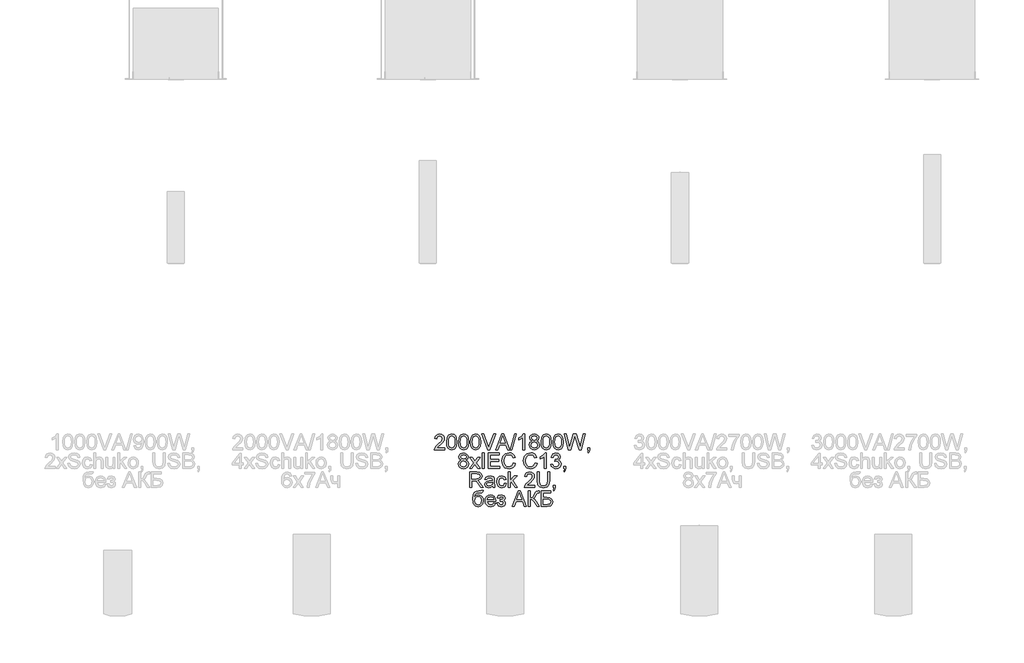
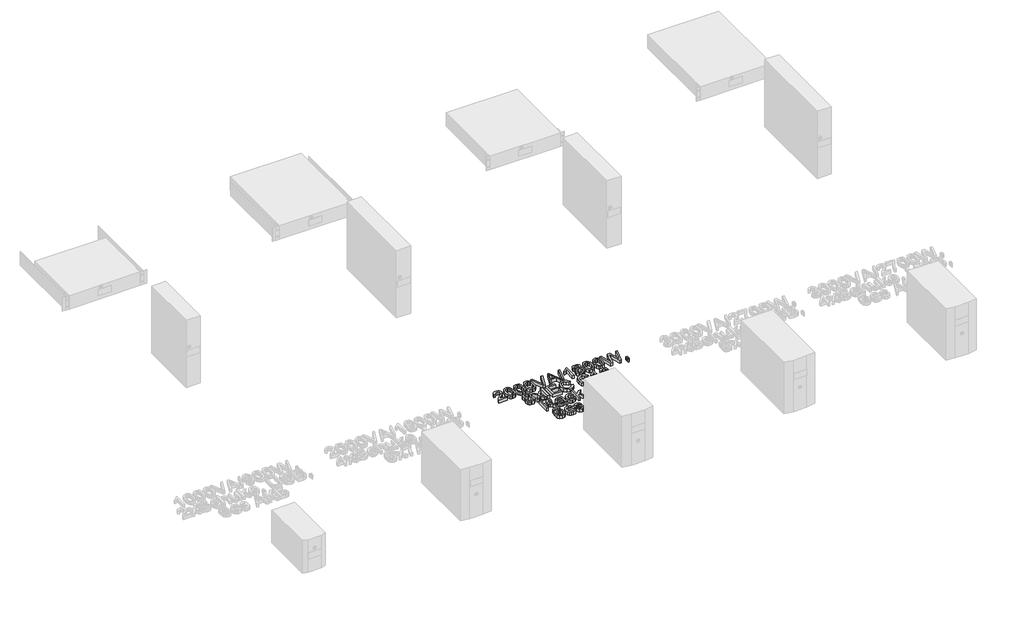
# One storey, part 57 of 74: 1 proxy.
"""IFC4 building model written with IfcOpenShell, lengths in millimetres."""

from ifc_helpers import new_model, si_unit, origin, origin_with_axes, place, context, project, spatial, polyline, outline, extrude, element, save

model = new_model("IFC4")

# Units and contexts
model_context = context("Model", 3, world=origin())
ifc_project = project(units=[si_unit("LENGTHUNIT", "METRE", prefix="MILLI")], contexts=[model_context])

# Site, building, storey
site = spatial("IfcSite", under=ifc_project)
building = spatial("IfcBuilding", under=site)
storey = spatial("IfcBuildingStorey", under=building, Name="Этаж 01", Elevation=0.0)

# Proxy
placement = place(None, origin())
element("IfcBuildingElementProxy", 1, Name="80 мм Arial", ObjectType="80 мм Arial", at=placement, inside=storey, context=model_context, shape_type="SweptSolid", body=[
    extrude(outline(polyline([(4039.1131351, -727.5892275), (4039.1131351, -737.6348585), (3986.3735723, -737.6348585), (3987.4526928, -730.7088668), (3993.5546288, -720.045194), (4006.1312879, -708.4005026), (4023.4756977, -691.6643244), (4027.8118002, -680.284508), (4023.7209524, -671.0727428), (4013.0376593, -667.3154414), (4001.9030975, -670.9844511), (3997.6749071, -681.128184), (3987.6292761, -679.8724801), (3990.0646549, -670.1554904), (3995.3302726, -663.0578204), (4003.1514438, -658.7168129), (4013.2534834, -657.2698104), (4023.4290994, -658.8786809), (4031.2355553, -663.7052927), (4036.2019622, -670.9157798), (4037.8574312, -679.6762764), (4036.0719773, -689.2019675), (4030.1368144, -699.0513948), (4015.7452708, -712.8150865), (4004.188871, -722.4781203), (3999.6565648, -727.5892275), (4039.1131351, -727.5892275)])), origin_with_axes(), (0.0, 0.0, 1.0), 20.0),
    extrude(outline(polyline([(4049.1587661, -698.0998067), (4052.1116322, -674.9771971), (4060.881939, -661.6451535), (4075.5285475, -657.2698104), (4087.2615306, -659.8596996), (4095.3647447, -667.3252516), (4100.0736342, -679.2151976), (4101.8983289, -698.0998067), (4098.9748933, -721.1243145), (4090.2340171, -734.4857886), (4075.5285475, -738.8905623), (4065.090509, -736.977576), (4057.1638783, -731.2386168), (4051.1600442, -717.6466034), (4049.1587661, -698.0998067)]), holes=[polyline([(4059.2043971, -698.0801864), (4060.3816195, -713.8819443), (4063.9132867, -723.0274907), (4075.5285475, -728.8449313), (4087.1438084, -723.0078703), (4090.6754755, -713.8574189), (4091.8526979, -698.0801864), (4090.7147163, -682.6340476), (4087.3007714, -673.4173774), (4082.0523216, -668.8409254), (4075.4108253, -667.3154414), (4064.0702496, -672.6914236), (4060.4208602, -682.4819898), (4059.2043971, -698.0801864)])]), origin_with_axes(), (0.0, 0.0, 1.0), 20.0),
    extrude(outline(polyline([(4110.6882561, -698.0998067), (4113.6411222, -674.9771971), (4122.411429, -661.6451535), (4137.0580375, -657.2698104), (4148.7910206, -659.8596996), (4156.8942347, -667.3252516), (4161.6031242, -679.2151976), (4163.4278189, -698.0998067), (4160.5043833, -721.1243145), (4151.7635071, -734.4857886), (4137.0580375, -738.8905623), (4126.619999, -736.977576), (4118.6933683, -731.2386168), (4112.6895341, -717.6466034), (4110.6882561, -698.0998067)]), holes=[polyline([(4120.7338871, -698.0801864), (4121.9111095, -713.8819443), (4125.4427766, -723.0274907), (4137.0580375, -728.8449313), (4148.6732983, -723.0078703), (4152.2049655, -713.8574189), (4153.3821879, -698.0801864), (4152.2442062, -682.6340476), (4148.8302613, -673.4173774), (4143.5818115, -668.8409254), (4136.9403152, -667.3154414), (4125.5997396, -672.6914236), (4121.9503502, -682.4819898), (4120.7338871, -698.0801864)])]), origin_with_axes(), (0.0, 0.0, 1.0), 20.0),
    extrude(outline(polyline([(4172.217746, -698.0998067), (4175.1706122, -674.9771971), (4183.9409189, -661.6451535), (4198.5875274, -657.2698104), (4210.3205105, -659.8596996), (4218.4237246, -667.3252516), (4223.1326142, -679.2151976), (4224.9573089, -698.0998067), (4222.0338733, -721.1243145), (4213.2929971, -734.4857886), (4198.5875274, -738.8905623), (4188.149489, -736.977576), (4180.2228582, -731.2386168), (4174.2190241, -717.6466034), (4172.217746, -698.0998067)]), holes=[polyline([(4182.263377, -698.0801864), (4183.4405994, -713.8819443), (4186.9722666, -723.0274907), (4198.5875274, -728.8449313), (4210.2027883, -723.0078703), (4213.7344555, -713.8574189), (4214.9116778, -698.0801864), (4213.7736962, -682.6340476), (4210.3597513, -673.4173774), (4205.1113015, -668.8409254), (4198.4698052, -667.3154414), (4187.1292296, -672.6914236), (4183.4798402, -682.4819898), (4182.263377, -698.0801864)])]), origin_with_axes(), (0.0, 0.0, 1.0), 20.0),
    extrude(outline(polyline([(4302.2419584, -737.6348585), (4334.3212684, -657.2698104), (4342.875751, -657.2698104), (4374.955061, -737.6348585), (4364.3404392, -737.6348585), (4355.1384842, -712.5207809), (4322.0389148, -712.5207809), (4312.8565802, -737.6348585), (4302.2419584, -737.6348585)]), holes=[polyline([(4325.727545, -702.4751499), (4351.4694745, -702.4751499), (4344.2295568, -682.7174342), (4338.5985097, -667.3154414), (4333.5953146, -680.9908414), (4325.727545, -702.4751499)])]), origin_with_axes(), (0.0, 0.0, 1.0), 20.0),
    extrude(outline(polyline([(4261.2549991, -737.6348585), (4229.2737909, -657.2698104), (4240.0257554, -657.2698104), (4261.4315824, -715.1695313), (4265.7676849, -728.2170794), (4270.0449262, -715.1695313), (4291.5096143, -657.2698104), (4302.2615788, -657.2698104), (4271.6341764, -737.6348585), (4261.2549991, -737.6348585)])), origin_with_axes(), (0.0, 0.0, 1.0), 20.0),
    extrude(outline(polyline([(4376.897478, -737.6348585), (4399.5001477, -657.2698104), (4408.5647601, -657.2698104), (4385.9620903, -737.6348585), (4376.897478, -737.6348585)])), origin_with_axes(), (0.0, 0.0, 1.0), 20.0),
    extrude(outline(polyline([(4450.9840067, -737.6348585), (4440.9383757, -737.6348585), (4440.9383757, -675.0066276), (4431.4224947, -681.7854665), (4420.8471137, -686.857333), (4420.8471137, -677.3610724), (4435.5722036, -667.9629137), (4444.5092836, -657.2698104), (4450.9840067, -657.2698104), (4450.9840067, -737.6348585)])), origin_with_axes(), (0.0, 0.0, 1.0), 20.0),
    extrude(outline(polyline([(4489.4791787, -693.3712968), (4480.3262746, -687.1320182), (4477.3537881, -677.4199335), (4478.9724689, -669.5668792), (4483.8285112, -663.0774408), (4491.3774498, -658.721718), (4501.0748192, -657.2698104), (4510.8310497, -658.7560536), (4518.4780901, -663.2147834), (4523.4224241, -669.8072287), (4525.0705354, -677.6946187), (4522.1372897, -687.1614487), (4513.2394505, -693.3712968), (4523.9227436, -701.2488766), (4527.5819432, -714.2473738), (4525.7670587, -723.8515464), (4520.3224051, -731.7879873), (4511.9150753, -737.1149186), (4501.2121618, -738.8905623), (4490.5092483, -737.1075609), (4482.1019184, -731.7585567), (4476.6572649, -723.7460869), (4474.8423804, -713.9726885), (4478.6487327, -700.6700756), (4489.4791787, -693.3712968)]), holes=[polyline([(4487.3994191, -677.7142391), (4490.9605168, -685.6016291), (4501.329884, -688.6624073), (4511.4932373, -685.6212494), (4515.0249044, -678.1655077), (4511.375515, -670.4448909), (4501.2121618, -667.3154414), (4491.019378, -670.3762196), (4487.3994191, -677.7142391)]), polyline([(4484.8880114, -713.6195218), (4486.5655533, -721.1831756), (4492.5007161, -726.8436533), (4501.2906433, -728.8449313), (4513.2590708, -724.6363613), (4517.5363122, -713.9334478), (4513.1217282, -703.0245204), (4500.9570969, -698.7080383), (4489.1358221, -702.9656592), (4484.8880114, -713.6195218)])]), origin_with_axes(), (0.0, 0.0, 1.0), 20.0),
    extrude(outline(polyline([(4536.3718703, -698.0998067), (4539.3247365, -674.9771971), (4548.0950432, -661.6451535), (4562.7416517, -657.2698104), (4574.4746348, -659.8596996), (4582.5778489, -667.3252516), (4587.2867385, -679.2151976), (4589.1114332, -698.0998067), (4586.1879976, -721.1243145), (4577.4471214, -734.4857886), (4562.7416517, -738.8905623), (4552.3036133, -736.977576), (4544.3769825, -731.2386168), (4538.3731484, -717.6466034), (4536.3718703, -698.0998067)]), holes=[polyline([(4546.4175013, -698.0801864), (4547.5947237, -713.8819443), (4551.1263909, -723.0274907), (4562.7416517, -728.8449313), (4574.3569126, -723.0078703), (4577.8885798, -713.8574189), (4579.0658021, -698.0801864), (4577.9278205, -682.6340476), (4574.5138756, -673.4173774), (4569.2654258, -668.8409254), (4562.6239295, -667.3154414), (4551.2833539, -672.6914236), (4547.6339645, -682.4819898), (4546.4175013, -698.0801864)])]), origin_with_axes(), (0.0, 0.0, 1.0), 20.0),
    extrude(outline(polyline([(4597.9013603, -698.0998067), (4600.8542264, -674.9771971), (4609.6245332, -661.6451535), (4624.2711417, -657.2698104), (4636.0041248, -659.8596996), (4644.1073389, -667.3252516), (4648.8162284, -679.2151976), (4650.6409231, -698.0998067), (4647.7174875, -721.1243145), (4638.9766113, -734.4857886), (4624.2711417, -738.8905623), (4613.8331032, -736.977576), (4605.9064725, -731.2386168), (4599.9026383, -717.6466034), (4597.9013603, -698.0998067)]), holes=[polyline([(4607.9469913, -698.0801864), (4609.1242137, -713.8819443), (4612.6558808, -723.0274907), (4624.2711417, -728.8449313), (4635.8864026, -723.0078703), (4639.4180697, -713.8574189), (4640.5952921, -698.0801864), (4639.4573105, -682.6340476), (4636.0433656, -673.4173774), (4630.7949158, -668.8409254), (4624.1534195, -667.3154414), (4612.8128438, -672.6914236), (4609.1634544, -682.4819898), (4607.9469913, -698.0801864)])]), origin_with_axes(), (0.0, 0.0, 1.0), 20.0),
    extrude(outline(polyline([(4677.5796954, -737.6348585), (4655.6637386, -657.2698104), (4666.0232956, -657.2698104), (4678.7372974, -710.0878547), (4682.661372, -726.3923847), (4686.8601318, -711.9714105), (4702.7918748, -657.2698104), (4717.7229787, -657.2698104), (4729.2989988, -696.9225843), (4737.9123426, -726.3923847), (4741.7186949, -710.5587436), (4754.5504189, -657.2698104), (4764.9099759, -657.2698104), (4742.9743988, -737.6348585), (4732.2420547, -737.6348585), (4712.9748484, -675.6344796), (4710.2868573, -666.981895), (4707.2653198, -677.4003131), (4689.7050859, -737.6348585), (4677.5796954, -737.6348585)])), origin_with_axes(), (0.0, 0.0, 1.0), 20.0),
    extrude(outline(polyline([(4776.2113108, -737.6348585), (4776.2113108, -727.5892275), (4786.2569418, -727.5892275), (4786.2569418, -737.6348585), (4784.4518675, -747.9061238), (4778.7227186, -753.9590089), (4776.2113108, -750.1918972), (4779.8999409, -745.8557948), (4781.2145059, -737.6348585), (4776.2113108, -737.6348585)])), origin_with_axes(), (0.0, 0.0, 1.0), 20.0),
    extrude(outline(polyline([(4124.6972024, -790.9511511), (4115.5442984, -784.7118724), (4112.5718119, -774.9997878), (4114.1904927, -767.1467335), (4119.046535, -760.6572951), (4126.5954735, -756.3015722), (4136.2928429, -754.8496646), (4146.0490734, -756.3359079), (4153.6961138, -760.7946377), (4158.6404479, -767.387083), (4160.2885592, -775.274473), (4157.3553134, -784.741303), (4148.4574742, -790.9511511), (4159.1407674, -798.8287309), (4162.799967, -811.827228), (4160.9850824, -821.4314007), (4155.5404289, -829.3678416), (4147.1330991, -834.6947729), (4136.4301855, -836.4704166), (4125.727272, -834.6874152), (4117.3199422, -829.338411), (4111.8752886, -821.3259412), (4110.0604041, -811.5525428), (4113.8667565, -798.2499299), (4124.6972024, -790.9511511)]), holes=[polyline([(4122.6174429, -775.2940934), (4126.1785406, -783.1814834), (4136.5479078, -786.2422615), (4146.711261, -783.2011037), (4150.2429282, -775.745362), (4146.5935388, -768.0247451), (4136.4301855, -764.8952956), (4126.2374017, -767.9560738), (4122.6174429, -775.2940934)]), polyline([(4120.1060351, -811.1993761), (4121.783577, -818.7630299), (4127.7187399, -824.4235076), (4136.508667, -826.4247856), (4148.4770946, -822.2162156), (4152.7543359, -811.5133021), (4148.339752, -800.6043746), (4136.1751207, -796.2878926), (4124.3538459, -800.5455135), (4120.1060351, -811.1993761)])]), origin_with_axes(), (0.0, 0.0, 1.0), 20.0),
    extrude(outline(polyline([(4167.8227825, -835.2147127), (4189.2874706, -805.5487087), (4169.0784863, -776.1966305), (4181.1646362, -776.1966305), (4190.9159616, -790.3232991), (4195.4678881, -796.994226), (4199.4115831, -791.5397623), (4210.5167143, -776.1966305), (4222.6028641, -776.1966305), (4201.3736204, -805.5487087), (4221.8180492, -835.2147127), (4209.7318994, -835.2147127), (4197.4299254, -817.3797936), (4195.1735825, -814.1228117), (4179.9089323, -835.2147127), (4167.8227825, -835.2147127)])), origin_with_axes(), (0.0, 0.0, 1.0), 20.0),
    extrude(outline(polyline([(4233.1193841, -835.2147127), (4233.1193841, -754.8496646), (4243.1650151, -754.8496646), (4243.1650151, -835.2147127), (4233.1193841, -835.2147127)])), origin_with_axes(), (0.0, 0.0, 1.0), 20.0),
    extrude(outline(polyline([(4263.2562771, -835.2147127), (4263.2562771, -754.8496646), (4321.0186554, -754.8496646), (4321.0186554, -764.8952956), (4273.3019081, -764.8952956), (4273.3019081, -788.7536693), (4318.5072477, -788.7536693), (4318.5072477, -798.7993003), (4273.3019081, -798.7993003), (4273.3019081, -825.1690817), (4322.2743593, -825.1690817), (4322.2743593, -835.2147127), (4263.2562771, -835.2147127)])), origin_with_axes(), (0.0, 0.0, 1.0), 20.0),
    extrude(outline(polyline([(4393.8494803, -806.6474495), (4403.8951113, -809.2373388), (4399.2597982, -820.9433439), (4391.9855449, -829.495374), (4382.4304232, -834.726656), (4370.9525049, -836.4704166), (4350.0469974, -831.1925363), (4337.7842642, -815.9082656), (4333.5756942, -794.4239571), (4338.3336347, -772.5864819), (4351.8618819, -758.4303827), (4371.168329, -753.5939608), (4382.182716, -755.1586855), (4391.2890216, -759.8528598), (4398.2027506, -767.387083), (4402.6394074, -777.4719548), (4392.5937764, -779.8656403), (4384.3532197, -767.5146154), (4370.7759216, -763.6395918), (4355.0600027, -767.9364535), (4346.1817839, -779.4732328), (4343.6213252, -794.4043367), (4346.6526729, -811.7095058), (4356.0900723, -822.765586), (4369.9518659, -826.4247856), (4385.3244282, -821.4412108), (4393.8494803, -806.6474495)])), origin_with_axes(), (0.0, 0.0, 1.0), 20.0),
    extrude(outline(polyline([(4505.6071253, -806.6474495), (4515.6527564, -809.2373388), (4511.0174432, -820.9433439), (4503.7431899, -829.495374), (4494.1880682, -834.726656), (4482.71015, -836.4704166), (4461.8046424, -831.1925363), (4449.5419093, -815.9082656), (4445.3333393, -794.4239571), (4450.0912797, -772.5864819), (4463.619527, -758.4303827), (4482.9259741, -753.5939608), (4493.940361, -755.1586855), (4503.0466667, -759.8528598), (4509.9603956, -767.387083), (4514.3970525, -777.4719548), (4504.3514215, -779.8656403), (4496.1108648, -767.5146154), (4482.5335666, -763.6395918), (4466.8176478, -767.9364535), (4457.939429, -779.4732328), (4455.3789703, -794.4043367), (4458.4103179, -811.7095058), (4467.8477174, -822.765586), (4481.7095109, -826.4247856), (4497.0820732, -821.4412108), (4505.6071253, -806.6474495)])), origin_with_axes(), (0.0, 0.0, 1.0), 20.0),
    extrude(outline(polyline([(4563.3695037, -835.2147127), (4553.3238727, -835.2147127), (4553.3238727, -772.5864819), (4543.8079917, -779.3653208), (4533.2326106, -784.4371872), (4533.2326106, -774.9409267), (4547.9577006, -765.542768), (4556.8947806, -754.8496646), (4563.3695037, -754.8496646), (4563.3695037, -835.2147127)])), origin_with_axes(), (0.0, 0.0, 1.0), 20.0),
    extrude(outline(polyline([(4587.2278773, -813.8677468), (4597.2735084, -812.612043), (4602.8162637, -823.1874241), (4613.1856309, -826.4247856), (4625.389503, -821.9709609), (4629.9218092, -810.9443113), (4625.4287437, -800.5553237), (4614.0096866, -796.4448555), (4606.9659727, -797.5435964), (4608.0843339, -787.4979654), (4609.6932045, -787.6156877), (4621.0926413, -784.7314928), (4626.1546975, -775.8630842), (4622.4856878, -768.0051248), (4613.0286679, -764.8952956), (4603.4539259, -768.0345553), (4598.5292122, -777.4523344), (4588.4835812, -776.1966305), (4596.7045175, -760.441471), (4612.6755012, -754.8496646), (4624.7910816, -757.606327), (4633.2670828, -765.1405503), (4636.2003285, -775.274473), (4633.4142356, -784.5352891), (4625.1736789, -791.1865956), (4636.121847, -798.0537261), (4639.9674402, -811.1208946), (4638.0446436, -820.9114608), (4632.2762539, -829.0931563), (4623.5697134, -834.6261016), (4612.8324642, -836.4704166), (4603.1203795, -834.8958817), (4595.2133692, -830.1722769), (4589.7147596, -822.9470745), (4587.2278773, -813.8677468)])), origin_with_axes(), (0.0, 0.0, 1.0), 20.0),
    extrude(outline(polyline([(4653.7801828, -835.2147127), (4653.7801828, -825.1690817), (4663.8258138, -825.1690817), (4663.8258138, -835.2147127), (4662.0207395, -845.4859781), (4656.2915906, -851.5388631), (4653.7801828, -847.7717515), (4657.468813, -843.4356491), (4658.7833779, -835.2147127), (4653.7801828, -835.2147127)])), origin_with_axes(), (0.0, 0.0, 1.0), 20.0),
    extrude(outline(polyline([(4169.0784863, -932.794567), (4169.0784863, -852.4295189), (4203.7084448, -852.4295189), (4219.7873406, -854.5975701), (4228.5772677, -862.269136), (4231.8636802, -874.4239571), (4226.4190267, -888.9037925), (4209.5945567, -896.3791546), (4215.3040853, -900.6760163), (4223.4465401, -911.0159529), (4236.8472549, -932.794567), (4225.173133, -932.794567), (4214.7154741, -916.1368703), (4207.1616305, -905.1102206), (4201.8543196, -899.9010116), (4197.0767587, -897.9880252), (4191.2495079, -897.6348585), (4179.1241174, -897.6348585), (4179.1241174, -932.794567), (4169.0784863, -932.794567)]), holes=[polyline([(4179.1241174, -887.5892275), (4201.6090649, -887.5892275), (4213.077173, -886.1667504), (4219.5911368, -881.6148239), (4221.8180492, -874.7967442), (4217.5702384, -865.947956), (4204.140093, -862.4751499), (4179.1241174, -862.4751499), (4179.1241174, -887.5892275)])]), origin_with_axes(), (0.0, 0.0, 1.0), 20.0),
    extrude(outline(polyline([(4285.8589469, -925.2603438), (4276.1174317, -932.0686132), (4265.355657, -934.0502709), (4250.7679096, -929.2825202), (4245.6764228, -917.0982686), (4247.5992194, -909.1520175), (4252.6514655, -903.3836278), (4259.6853692, -900.0874051), (4268.3771945, -898.5766364), (4285.8000858, -895.1234507), (4285.8589469, -892.8867282), (4283.0924743, -885.4702272), (4271.9873431, -882.5664119), (4261.8239899, -884.4990187), (4256.9777577, -891.3563391), (4246.9321267, -890.1006352), (4251.2780393, -880.2904487), (4260.0287257, -874.5416794), (4273.2822877, -872.5207809), (4285.4567292, -874.3062349), (4292.33367, -878.7894901), (4295.4140686, -885.6075698), (4295.9045779, -894.3974969), (4295.9045779, -906.8956746), (4296.4147076, -924.3479964), (4298.4159857, -932.794567), (4288.3703546, -932.794567), (4285.8589469, -925.2603438)]), holes=[polyline([(4285.8589469, -905.1690817), (4269.6525187, -908.2494803), (4261.0097444, -909.8779713), (4257.09548, -912.5267216), (4255.7220538, -916.3919351), (4258.7141607, -921.8267785), (4267.4942777, -924.0046399), (4277.6576309, -921.6011442), (4284.2108356, -915.7837036), (4285.8000858, -908.0140358), (4285.8589469, -905.1690817)])]), origin_with_axes(), (0.0, 0.0, 1.0), 20.0),
    extrude(outline(polyline([(4347.3884369, -911.4476011), (4357.4340679, -912.703305), (4354.6332596, -921.6379324), (4349.3700945, -928.3897933), (4333.4383516, -934.0502709), (4322.7526059, -932.0759709), (4314.3967795, -926.1530707), (4309.0036295, -916.5415405), (4307.2059128, -903.50135), (4310.2765012, -886.8142227), (4319.6354191, -876.0916888), (4333.301009, -872.5207809), (4348.5754694, -877.4258742), (4356.178364, -891.3563391), (4346.132733, -892.612043), (4341.4728944, -885.0876299), (4333.3794905, -882.5664119), (4321.7347991, -887.5303663), (4317.2515438, -903.2266648), (4321.6366972, -919.0701161), (4333.1048053, -924.0046399), (4342.5716353, -920.9242413), (4347.3884369, -911.4476011)])), origin_with_axes(), (0.0, 0.0, 1.0), 20.0),
    extrude(outline(polyline([(4366.223995, -932.794567), (4366.223995, -852.4295189), (4376.269626, -852.4295189), (4376.269626, -895.61396), (4398.7938143, -873.7764848), (4412.6850385, -873.7764848), (4389.8861649, -895.8886453), (4413.9407423, -932.794567), (4402.2077592, -932.794567), (4382.685488, -902.8734981), (4376.269626, -909.0931563), (4376.269626, -932.794567), (4366.223995, -932.794567)])), origin_with_axes(), (0.0, 0.0, 1.0), 20.0),
    extrude(outline(polyline([(4503.0957176, -922.748936), (4503.0957176, -932.794567), (4450.3561548, -932.794567), (4451.4352753, -925.8685753), (4457.5372113, -915.2049026), (4470.1138704, -903.5602111), (4487.4582802, -886.8240329), (4491.7943827, -875.4442165), (4487.7035349, -866.2324514), (4477.0202418, -862.4751499), (4465.88568, -866.1441597), (4461.6574897, -876.2878926), (4451.6118586, -875.0321887), (4454.0472374, -865.3151989), (4459.3128551, -858.217529), (4467.1340263, -853.8765214), (4477.2360659, -852.4295189), (4487.4116819, -854.0383895), (4495.2181378, -858.8650013), (4500.1845447, -866.0754884), (4501.8400137, -874.835985), (4500.0545598, -884.3616761), (4494.1193969, -894.2111034), (4479.7278533, -907.9747951), (4468.1714535, -917.6378288), (4463.6391473, -922.748936), (4503.0957176, -922.748936)])), origin_with_axes(), (0.0, 0.0, 1.0), 20.0),
    extrude(outline(polyline([(4569.6480231, -852.4295189), (4579.6936541, -852.4295189), (4579.6936541, -898.7924605), (4576.9664222, -918.0106159), (4567.1366153, -929.586636), (4548.4972609, -934.0502709), (4530.1424019, -930.165437), (4519.9594282, -918.9131531), (4516.9084602, -898.7924605), (4516.9084602, -852.4295189), (4526.9540912, -852.4295189), (4526.9540912, -898.4392938), (4528.9357489, -913.752995), (4535.7440184, -921.3362691), (4547.555483, -924.0046399), (4557.7727923, -922.6851698), (4564.5663464, -918.7267595), (4568.3776039, -911.0159529), (4569.6480231, -898.4392938), (4569.6480231, -852.4295189)])), origin_with_axes(), (0.0, 0.0, 1.0), 20.0),
    extrude(outline(polyline([(4598.5292122, -932.794567), (4598.5292122, -922.748936), (4608.5748432, -922.748936), (4608.5748432, -932.794567), (4606.7697689, -943.0658323), (4601.04062, -949.1187174), (4598.5292122, -945.3516058), (4602.2178424, -941.0155033), (4603.5324074, -932.794567), (4598.5292122, -932.794567)])), origin_with_axes(), (0.0, 0.0, 1.0), 20.0),
    extrude(outline(polyline([(4228.7244205, -948.7536693), (4237.5143476, -948.7536693), (4234.9244584, -956.5920083), (4229.803541, -959.4271523), (4217.5015671, -960.0550042), (4200.932162, -962.3702082), (4194.5751612, -969.7867092), (4192.4267303, -982.9127388), (4201.1283658, -973.298756), (4212.341409, -970.1006352), (4222.7941627, -972.1337964), (4231.275069, -978.2332799), (4236.8963059, -987.8006643), (4238.7700515, -1000.2375283), (4235.0519908, -1017.5230769), (4226.2326331, -1027.9513052), (4212.341409, -1031.6301252), (4196.4783373, -1026.8918051), (4187.7963223, -1014.7664145), (4184.7747848, -989.0342952), (4186.6804135, -969.7597312), (4192.3972997, -958.0046752), (4202.0676911, -952.0081987), (4215.8338354, -950.0093732), (4227.017448, -949.7837389), (4228.7244205, -948.7536693)]), holes=[polyline([(4228.7244205, -999.9236023), (4224.3686977, -985.6890216), (4219.1202479, -981.5319551), (4212.0863441, -980.1462662), (4204.7532297, -981.6104366), (4199.3134813, -986.0029476), (4194.8204158, -1001.6501951), (4199.7843702, -1016.4537666), (4212.027483, -1021.5844942), (4218.7621761, -1020.1007034), (4224.0940124, -1015.6493313), (4228.7244205, -999.9236023)])]), origin_with_axes(), (0.0, 0.0, 1.0), 20.0),
    extrude(outline(polyline([(4292.647596, -1012.794567), (4302.4970233, -1014.0502709), (4293.2852581, -1027.0193375), (4276.1272418, -1031.6301252), (4264.3403027, -1029.6411099), (4255.2707853, -1023.6740639), (4249.4876803, -1014.1164897), (4247.5599786, -1001.3558895), (4249.5073007, -988.1660937), (4255.3492668, -978.3019512), (4264.2961569, -972.1509642), (4275.558251, -970.1006352), (4286.469631, -972.1460591), (4295.1884343, -978.2823308), (4300.9053205, -988.126853), (4302.8109492, -1001.2970284), (4302.7520881, -1004.0046399), (4257.6056097, -1004.0046399), (4263.3838095, -1017.052188), (4276.3234456, -1021.5844942), (4286.1728729, -1019.4851142), (4292.647596, -1012.794567)]), holes=[polyline([(4257.6056097, -993.9590089), (4292.7653182, -993.9590089), (4288.7431417, -984.8551558), (4275.5190103, -980.1462662), (4263.1483651, -983.9035677), (4257.6056097, -993.9590089)])]), origin_with_axes(), (0.0, 0.0, 1.0), 20.0),
    extrude(outline(polyline([(4326.6693229, -1004.0046399), (4326.6693229, -993.9590089), (4334.5959536, -993.5666014), (4338.5985097, -991.4770317), (4340.4820655, -987.1114987), (4337.9608476, -982.0396322), (4331.4566939, -980.1462662), (4324.7367161, -982.029822), (4320.3908035, -987.6804895), (4309.0894686, -986.4247856), (4316.6433122, -974.1816728), (4330.4364345, -970.1006352), (4345.1909551, -975.0743998), (4350.5276965, -986.9545357), (4348.6294255, -993.1938143), (4342.9346122, -998.0204261), (4349.5761085, -1004.2793251), (4351.7834004, -1013.2850764), (4350.3829963, -1020.6795045), (4346.1817839, -1026.5386384), (4330.514916, -1031.6301252), (4315.0638722, -1026.9212356), (4307.8337647, -1012.794567), (4319.1350996, -1011.5388631), (4323.6674058, -1018.9553642), (4331.4763143, -1021.5844942), (4338.8143338, -1019.0632762), (4341.7377694, -1012.6179837), (4339.9228849, -1007.3401033), (4336.0576714, -1004.5147696), (4328.6313602, -1003.9457788), (4326.6693229, -1004.0046399)])), origin_with_axes(), (0.0, 0.0, 1.0), 20.0),
    extrude(outline(polyline([(4387.629822, -1030.3744213), (4419.709132, -950.0093732), (4428.2636147, -950.0093732), (4460.3429247, -1030.3744213), (4449.7283028, -1030.3744213), (4440.5263478, -1005.2603438), (4407.4267785, -1005.2603438), (4398.2444439, -1030.3744213), (4387.629822, -1030.3744213)]), holes=[polyline([(4411.1154086, -995.2147127), (4436.8573381, -995.2147127), (4429.6174204, -975.4569971), (4423.9863733, -960.0550042), (4418.9831782, -973.7304042), (4411.1154086, -995.2147127)])]), origin_with_axes(), (0.0, 0.0, 1.0), 20.0),
    extrude(outline(polyline([(4471.0752687, -950.0093732), (4481.1208997, -950.0093732), (4481.1208997, -985.1690817), (4492.3535633, -982.5105212), (4500.1919024, -969.0607554), (4505.7346578, -957.8280919), (4512.0131772, -952.2657161), (4520.9894978, -950.0093732), (4527.5819432, -950.1270954), (4527.5819432, -960.1727264), (4525.364841, -960.1138653), (4523.1477389, -960.0550042), (4515.2995896, -962.4683101), (4509.3349962, -972.8082467), (4502.222611, -985.4045262), (4495.2868091, -989.5640453), (4503.0417616, -994.1061617), (4510.688802, -1003.5729917), (4527.5819432, -1030.3744213), (4515.9274416, -1030.3744213), (4501.64381, -1007.7325108), (4491.5883688, -995.911236), (4481.1208997, -992.703305), (4481.1208997, -1030.3744213), (4471.0752687, -1030.3744213), (4471.0752687, -950.0093732)])), origin_with_axes(), (0.0, 0.0, 1.0), 20.0),
    extrude(outline(polyline([(4536.3718703, -950.0093732), (4586.6000254, -950.0093732), (4586.6000254, -960.0550042), (4546.4175013, -960.0550042), (4546.4175013, -983.9133779), (4565.2334391, -983.9133779), (4581.8126544, -985.9538967), (4591.681702, -993.6647033), (4595.3899525, -1006.849594), (4592.7510124, -1018.2980817), (4584.8734326, -1026.9997171), (4567.0385134, -1030.3744213), (4536.3718703, -1030.3744213), (4536.3718703, -950.0093732)]), holes=[polyline([(4546.4175013, -1020.3287903), (4567.9410506, -1020.3287903), (4580.9885987, -1017.0129472), (4585.3443215, -1007.0654181), (4582.8525341, -999.1976485), (4575.9167323, -994.9988886), (4560.7796144, -993.9590089), (4546.4175013, -993.9590089), (4546.4175013, -1020.3287903)])]), origin_with_axes(), (0.0, 0.0, 1.0), 20.0),
])

save(model, "model.ifc")
